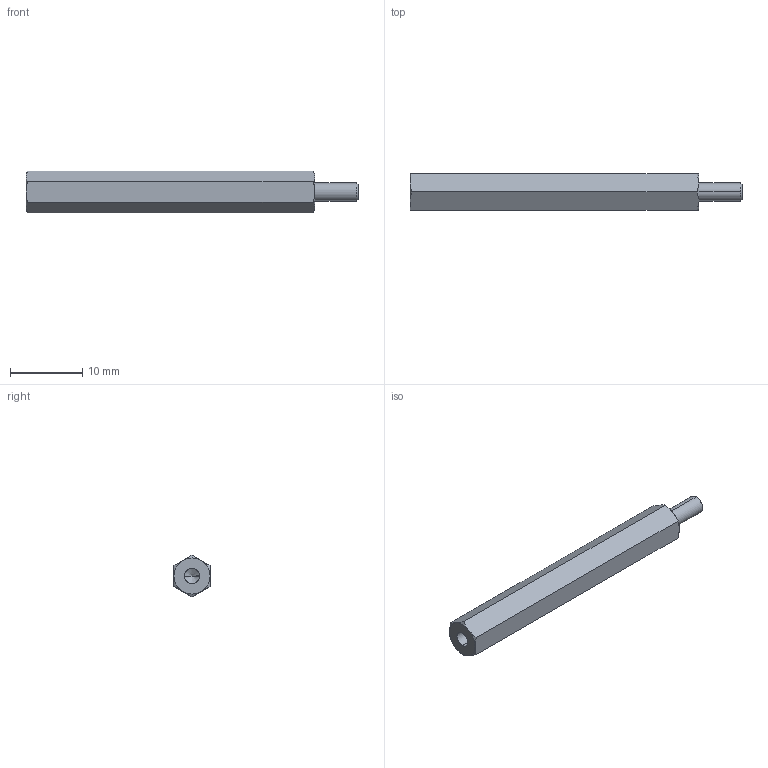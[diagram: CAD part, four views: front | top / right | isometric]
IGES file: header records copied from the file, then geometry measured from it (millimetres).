
Start section: SolidWorks IGES file using analytic representation for surfaces
Global section: file name: C:\Users\render1\Desktop\P0185_IGES\P0185.025-40.igs; native system: SolidWorks 2009; preprocessor: SolidWorks 2009; author: render1; date: 130627.111629; units: millimetre
Bounding box: 46 x 5 x 5.77 mm (x, y, z)
Surface area: 820.4 mm2 (no closed solid volume)
Topology: 0 solids, 0 shells, 29 faces, 324 edges, 322 vertices
Faces by surface type: revolution 20, bspline 9
